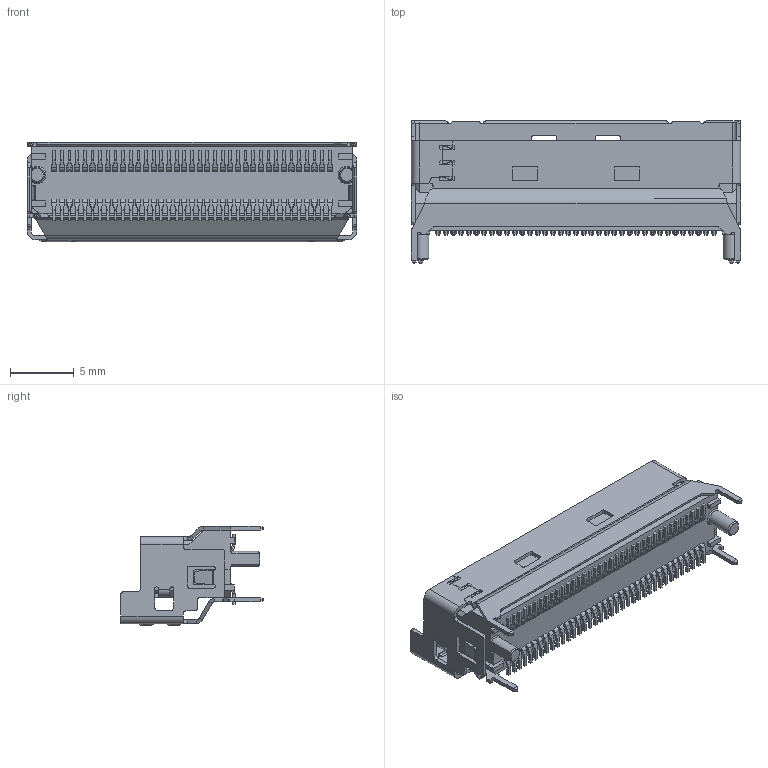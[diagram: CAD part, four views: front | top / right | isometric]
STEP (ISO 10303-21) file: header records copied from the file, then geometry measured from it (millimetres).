
FILE_DESCRIPTION((''),'2;1');
FILE_NAME('PRT0012','2024-05-18T14:39:13',('ZL'),(''),'CREO PARAMETRIC BY PTC INC, 2020053','CREO PARAMETRIC BY PTC INC, 2020053','');
FILE_SCHEMA(('AUTOMOTIVE_DESIGN { 1 0 10303 214 1 1 1 1 }'));
Products named in the file (1): PRT0012
Bounding box: 25.8 x 11.15 x 7.77 mm (x, y, z)
Volume: 786 mm3; surface area: 2078.5 mm2
Topology: 1 solids, 1 shells, 4712 faces, 12331 edges, 7692 vertices
Faces by surface type: plane 2706, cylinder 1666, bspline 169, torus 160, cone 11
Entity records: 182677 total; most frequent: CARTESIAN_POINT 33107, ORIENTED_EDGE 24662, DIRECTION 24089, EDGE_CURVE 12331, VECTOR 8284, LINE 8284, AXIS2_PLACEMENT_3D 7901, VERTEX_POINT 7692
